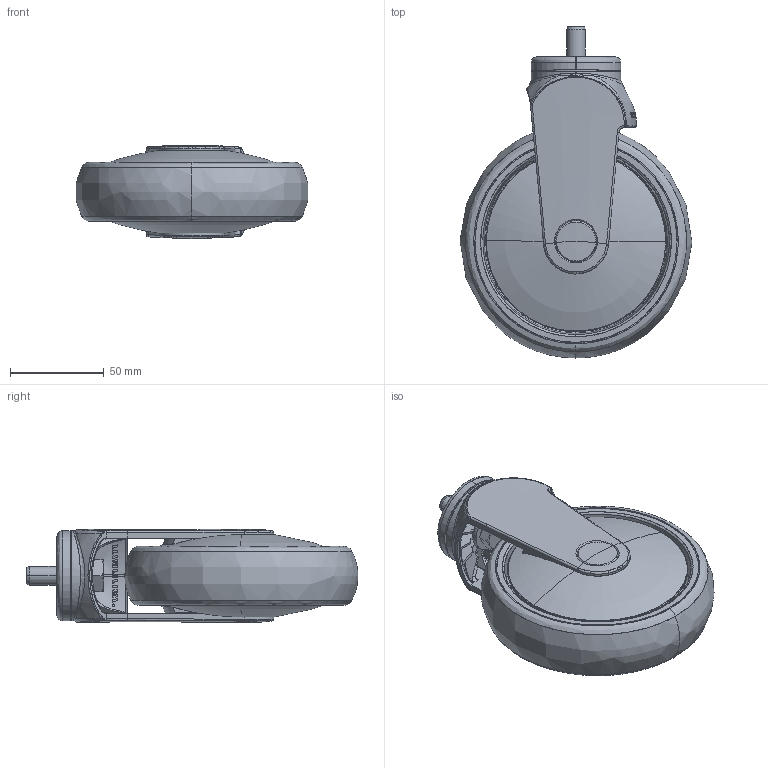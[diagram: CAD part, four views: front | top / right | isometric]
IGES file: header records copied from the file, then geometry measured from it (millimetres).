
Start section: SolidWorks IGES file using analytic representation for surfaces
Global section: file name: S:\Tyokansio\VL\301037_IGES.IGS; native system: SolidWorks 2011; preprocessor: SolidWorks 2011; author: VilleLa; date: 110622.131708; units: millimetre
Bounding box: 123.74 x 177.25 x 49.73 mm (x, y, z)
Surface area: 96979.1 mm2 (no closed solid volume)
Topology: 0 solids, 0 shells, 343 faces, 4770 edges, 4764 vertices
Faces by surface type: bspline 250, revolution 93
